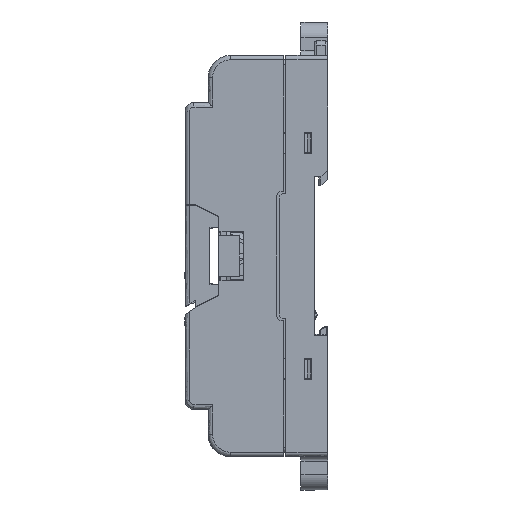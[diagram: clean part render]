
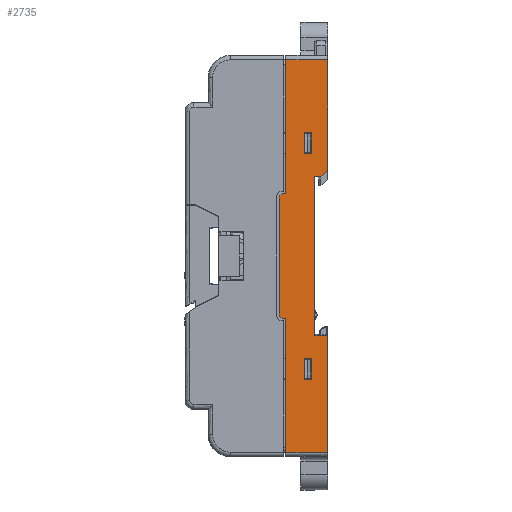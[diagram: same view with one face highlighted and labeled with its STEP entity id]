
A CAD part, left-side view. The second image highlights one B-rep face of the part: STEP entity #2735.
In plain terms, the highlighted planar face has unit normal (-1, 0, 0).
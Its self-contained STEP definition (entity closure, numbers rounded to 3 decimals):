
#536=FACE_BOUND('',#10218,.T.);
#537=FACE_BOUND('',#10219,.T.);
#2735=ADVANCED_FACE('',(#6260,#536,#537),#65721,.T.);
#6260=FACE_OUTER_BOUND('',#10217,.T.);
#10217=EDGE_LOOP('',(#25994,#25995,#25996,#25997,#25998,#25999,#26000,#26001,
#26002,#26003,#26004,#26005,#26006,#26007,#26008,#26009));
#10218=EDGE_LOOP('',(#26010,#26011,#26012,#26013));
#10219=EDGE_LOOP('',(#26014,#26015,#26016,#26017));
#25994=ORIENTED_EDGE('',*,*,#41340,.T.);
#25995=ORIENTED_EDGE('',*,*,#39799,.T.);
#25996=ORIENTED_EDGE('',*,*,#42056,.T.);
#25997=ORIENTED_EDGE('',*,*,#41346,.T.);
#25998=ORIENTED_EDGE('',*,*,#41097,.F.);
#25999=ORIENTED_EDGE('',*,*,#41345,.T.);
#26000=ORIENTED_EDGE('',*,*,#41959,.T.);
#26001=ORIENTED_EDGE('',*,*,#39856,.T.);
#26002=ORIENTED_EDGE('',*,*,#41344,.T.);
#26003=ORIENTED_EDGE('',*,*,#40287,.F.);
#26004=ORIENTED_EDGE('',*,*,#41343,.T.);
#26005=ORIENTED_EDGE('',*,*,#41943,.T.);
#26006=ORIENTED_EDGE('',*,*,#41342,.T.);
#26007=ORIENTED_EDGE('',*,*,#41914,.T.);
#26008=ORIENTED_EDGE('',*,*,#41341,.T.);
#26009=ORIENTED_EDGE('',*,*,#40376,.F.);
#26010=ORIENTED_EDGE('',*,*,#40919,.T.);
#26011=ORIENTED_EDGE('',*,*,#41348,.T.);
#26012=ORIENTED_EDGE('',*,*,#40930,.T.);
#26013=ORIENTED_EDGE('',*,*,#41347,.T.);
#26014=ORIENTED_EDGE('',*,*,#41349,.T.);
#26015=ORIENTED_EDGE('',*,*,#41325,.T.);
#26016=ORIENTED_EDGE('',*,*,#41339,.T.);
#26017=ORIENTED_EDGE('',*,*,#41335,.T.);
#39799=EDGE_CURVE('',#59961,#59962,#51287,.T.);
#39856=EDGE_CURVE('',#60031,#60025,#51344,.T.);
#40287=EDGE_CURVE('',#60607,#60606,#51774,.T.);
#40376=EDGE_CURVE('',#60793,#60792,#51863,.T.);
#40919=EDGE_CURVE('',#61207,#61208,#52385,.T.);
#40930=EDGE_CURVE('',#61216,#61217,#52396,.T.);
#41097=EDGE_CURVE('',#61357,#61356,#52547,.T.);
#41325=EDGE_CURVE('',#61492,#61493,#52738,.T.);
#41335=EDGE_CURVE('',#61495,#61496,#52747,.T.);
#41339=EDGE_CURVE('',#61493,#61495,#52751,.T.);
#41340=EDGE_CURVE('',#60793,#59961,#52752,.T.);
#41341=EDGE_CURVE('',#61497,#60792,#52753,.T.);
#41342=EDGE_CURVE('',#61499,#61498,#52754,.T.);
#41343=EDGE_CURVE('',#60607,#61500,#52755,.T.);
#41344=EDGE_CURVE('',#60025,#60606,#52756,.T.);
#41345=EDGE_CURVE('',#61357,#61501,#52757,.T.);
#41346=EDGE_CURVE('',#61502,#61356,#52758,.T.);
#41347=EDGE_CURVE('',#61217,#61207,#52759,.T.);
#41348=EDGE_CURVE('',#61208,#61216,#52760,.T.);
#41349=EDGE_CURVE('',#61496,#61492,#52761,.T.);
#41914=EDGE_CURVE('',#61498,#61497,#45836,.T.);
#41943=EDGE_CURVE('',#61500,#61499,#45842,.T.);
#41959=EDGE_CURVE('',#61501,#60031,#53323,.T.);
#42056=EDGE_CURVE('',#59962,#61502,#45851,.T.);
#45836=(
BOUNDED_CURVE()
B_SPLINE_CURVE(2,(#113465,#113466,#113467),.UNSPECIFIED.,.F.,.F.)
B_SPLINE_CURVE_WITH_KNOTS((3,3),(0.,1.571),.UNSPECIFIED.)
CURVE()
GEOMETRIC_REPRESENTATION_ITEM()
RATIONAL_B_SPLINE_CURVE((1.,0.707,1.))
REPRESENTATION_ITEM('')
);
#45842=(
BOUNDED_CURVE()
B_SPLINE_CURVE(2,(#113529,#113530,#113531),.UNSPECIFIED.,.F.,.F.)
B_SPLINE_CURVE_WITH_KNOTS((3,3),(0.,1.571),.UNSPECIFIED.)
CURVE()
GEOMETRIC_REPRESENTATION_ITEM()
RATIONAL_B_SPLINE_CURVE((1.,0.707,1.))
REPRESENTATION_ITEM('')
);
#45851=(
BOUNDED_CURVE()
B_SPLINE_CURVE(2,(#113842,#113843,#113844),.UNSPECIFIED.,.F.,.F.)
B_SPLINE_CURVE_WITH_KNOTS((3,3),(0.,0.314),.UNSPECIFIED.)
CURVE()
GEOMETRIC_REPRESENTATION_ITEM()
RATIONAL_B_SPLINE_CURVE((1.,0.707,1.))
REPRESENTATION_ITEM('')
);
#51287=B_SPLINE_CURVE_WITH_KNOTS('',1,(#108544,#108545),.UNSPECIFIED.,.F.,
 .F.,(2,2),(0.,26.05),.UNSPECIFIED.);
#51344=B_SPLINE_CURVE_WITH_KNOTS('',1,(#108730,#108731),.UNSPECIFIED.,.F.,
 .F.,(2,2),(0.,24.75),.UNSPECIFIED.);
#51774=B_SPLINE_CURVE_WITH_KNOTS('',1,(#109683,#109684),.UNSPECIFIED.,.F.,
 .F.,(2,2),(-30.,0.),.UNSPECIFIED.);
#51863=B_SPLINE_CURVE_WITH_KNOTS('',1,(#109861,#109862),.UNSPECIFIED.,.F.,
 .F.,(2,2),(-30.,0.),.UNSPECIFIED.);
#52385=B_SPLINE_CURVE_WITH_KNOTS('',1,(#110990,#110991),.UNSPECIFIED.,.F.,
 .F.,(2,2),(0.,1.65),.UNSPECIFIED.);
#52396=B_SPLINE_CURVE_WITH_KNOTS('',1,(#111012,#111013),.UNSPECIFIED.,.F.,
 .F.,(2,2),(0.,1.65),.UNSPECIFIED.);
#52547=B_SPLINE_CURVE_WITH_KNOTS('',1,(#111450,#111451),.UNSPECIFIED.,.F.,
 .F.,(2,2),(-35.5,0.),.UNSPECIFIED.);
#52738=B_SPLINE_CURVE_WITH_KNOTS('',1,(#112176,#112177),.UNSPECIFIED.,.F.,
 .F.,(2,2),(0.,1.65),.UNSPECIFIED.);
#52747=B_SPLINE_CURVE_WITH_KNOTS('',1,(#112203,#112204),.UNSPECIFIED.,.F.,
 .F.,(2,2),(0.,1.65),.UNSPECIFIED.);
#52751=B_SPLINE_CURVE_WITH_KNOTS('',1,(#112211,#112212),.UNSPECIFIED.,.F.,
 .F.,(2,2),(0.,4.75),.UNSPECIFIED.);
#52752=B_SPLINE_CURVE_WITH_KNOTS('',1,(#112213,#112214),.UNSPECIFIED.,.F.,
 .F.,(2,2),(-9.4,0.),.UNSPECIFIED.);
#52753=B_SPLINE_CURVE_WITH_KNOTS('',1,(#112215,#112216),.UNSPECIFIED.,.F.,
 .F.,(2,2),(-0.5,0.),.UNSPECIFIED.);
#52754=B_SPLINE_CURVE_WITH_KNOTS('',1,(#112217,#112218),.UNSPECIFIED.,.F.,
 .F.,(2,2),(-26.,0.),.UNSPECIFIED.);
#52755=B_SPLINE_CURVE_WITH_KNOTS('',1,(#112219,#112220),.UNSPECIFIED.,.F.,
 .F.,(2,2),(-0.5,0.),.UNSPECIFIED.);
#52756=B_SPLINE_CURVE_WITH_KNOTS('',1,(#112221,#112222),.UNSPECIFIED.,.F.,
 .F.,(2,2),(-9.4,0.),.UNSPECIFIED.);
#52757=B_SPLINE_CURVE_WITH_KNOTS('',1,(#112223,#112224),.UNSPECIFIED.,.F.,
 .F.,(2,2),(-1.5,0.),.UNSPECIFIED.);
#52758=B_SPLINE_CURVE_WITH_KNOTS('',1,(#112225,#112226),.UNSPECIFIED.,.F.,
 .F.,(2,2),(-2.8,0.),.UNSPECIFIED.);
#52759=B_SPLINE_CURVE_WITH_KNOTS('',1,(#112227,#112228),.UNSPECIFIED.,.F.,
 .F.,(2,2),(-4.75,0.),.UNSPECIFIED.);
#52760=B_SPLINE_CURVE_WITH_KNOTS('',1,(#112229,#112230),.UNSPECIFIED.,.F.,
 .F.,(2,2),(-4.75,0.),.UNSPECIFIED.);
#52761=B_SPLINE_CURVE_WITH_KNOTS('',1,(#112231,#112232),.UNSPECIFIED.,.F.,
 .F.,(2,2),(-4.75,0.),.UNSPECIFIED.);
#53323=B_SPLINE_CURVE_WITH_KNOTS('',1,(#113565,#113566),.UNSPECIFIED.,.F.,
 .F.,(2,2),(0.,2.121),.UNSPECIFIED.);
#59961=VERTEX_POINT('',#106655);
#59962=VERTEX_POINT('',#106656);
#60025=VERTEX_POINT('',#106719);
#60031=VERTEX_POINT('',#106725);
#60606=VERTEX_POINT('',#107300);
#60607=VERTEX_POINT('',#107301);
#60792=VERTEX_POINT('',#107486);
#60793=VERTEX_POINT('',#107487);
#61207=VERTEX_POINT('',#107901);
#61208=VERTEX_POINT('',#107902);
#61216=VERTEX_POINT('',#107910);
#61217=VERTEX_POINT('',#107911);
#61356=VERTEX_POINT('',#108050);
#61357=VERTEX_POINT('',#108051);
#61492=VERTEX_POINT('',#108186);
#61493=VERTEX_POINT('',#108187);
#61495=VERTEX_POINT('',#108189);
#61496=VERTEX_POINT('',#108190);
#61497=VERTEX_POINT('',#108191);
#61498=VERTEX_POINT('',#108192);
#61499=VERTEX_POINT('',#108193);
#61500=VERTEX_POINT('',#108194);
#61501=VERTEX_POINT('',#108195);
#61502=VERTEX_POINT('',#108196);
#65721=PLANE('',#68621);
#68621=AXIS2_PLACEMENT_3D('',#101443,#71418,$);
#71418=DIRECTION('',(-1.,0.,0.));
#101443=CARTESIAN_POINT('',(-100.2,-1.362,-53.072));
#106655=CARTESIAN_POINT('',(-100.2,0.,-44.));
#106656=CARTESIAN_POINT('',(-100.2,0.,-17.95));
#106719=CARTESIAN_POINT('',(-100.2,0.,44.));
#106725=CARTESIAN_POINT('',(-100.2,0.,19.25));
#107300=CARTESIAN_POINT('',(-100.2,9.4,44.));
#107301=CARTESIAN_POINT('',(-100.2,9.4,14.));
#107486=CARTESIAN_POINT('',(-100.2,9.4,-14.));
#107487=CARTESIAN_POINT('',(-100.2,9.4,-44.));
#107901=CARTESIAN_POINT('',(-100.2,5.3,27.675));
#107902=CARTESIAN_POINT('',(-100.2,3.65,27.675));
#107910=CARTESIAN_POINT('',(-100.2,3.65,22.925));
#107911=CARTESIAN_POINT('',(-100.2,5.3,22.925));
#108050=CARTESIAN_POINT('',(-100.2,3.,-17.75));
#108051=CARTESIAN_POINT('',(-100.2,3.,17.75));
#108186=CARTESIAN_POINT('',(-100.2,5.3,-22.925));
#108187=CARTESIAN_POINT('',(-100.2,3.65,-22.925));
#108189=CARTESIAN_POINT('',(-100.2,3.65,-27.675));
#108190=CARTESIAN_POINT('',(-100.2,5.3,-27.675));
#108191=CARTESIAN_POINT('',(-100.2,9.9,-14.));
#108192=CARTESIAN_POINT('',(-100.2,10.9,-13.));
#108193=CARTESIAN_POINT('',(-100.2,10.9,13.));
#108194=CARTESIAN_POINT('',(-100.2,9.9,14.));
#108195=CARTESIAN_POINT('',(-100.2,1.5,17.75));
#108196=CARTESIAN_POINT('',(-100.2,0.2,-17.75));
#108544=CARTESIAN_POINT('',(-100.2,0.,-44.));
#108545=CARTESIAN_POINT('',(-100.2,0.,-17.95));
#108730=CARTESIAN_POINT('',(-100.2,0.,19.25));
#108731=CARTESIAN_POINT('',(-100.2,0.,44.));
#109683=CARTESIAN_POINT('',(-100.2,9.4,14.));
#109684=CARTESIAN_POINT('',(-100.2,9.4,44.));
#109861=CARTESIAN_POINT('',(-100.2,9.4,-44.));
#109862=CARTESIAN_POINT('',(-100.2,9.4,-14.));
#110990=CARTESIAN_POINT('',(-100.2,5.3,27.675));
#110991=CARTESIAN_POINT('',(-100.2,3.65,27.675));
#111012=CARTESIAN_POINT('',(-100.2,3.65,22.925));
#111013=CARTESIAN_POINT('',(-100.2,5.3,22.925));
#111450=CARTESIAN_POINT('',(-100.2,3.,17.75));
#111451=CARTESIAN_POINT('',(-100.2,3.,-17.75));
#112176=CARTESIAN_POINT('',(-100.2,5.3,-22.925));
#112177=CARTESIAN_POINT('',(-100.2,3.65,-22.925));
#112203=CARTESIAN_POINT('',(-100.2,3.65,-27.675));
#112204=CARTESIAN_POINT('',(-100.2,5.3,-27.675));
#112211=CARTESIAN_POINT('',(-100.2,3.65,-22.925));
#112212=CARTESIAN_POINT('',(-100.2,3.65,-27.675));
#112213=CARTESIAN_POINT('',(-100.2,9.4,-44.));
#112214=CARTESIAN_POINT('',(-100.2,0.,-44.));
#112215=CARTESIAN_POINT('',(-100.2,9.9,-14.));
#112216=CARTESIAN_POINT('',(-100.2,9.4,-14.));
#112217=CARTESIAN_POINT('',(-100.2,10.9,13.));
#112218=CARTESIAN_POINT('',(-100.2,10.9,-13.));
#112219=CARTESIAN_POINT('',(-100.2,9.4,14.));
#112220=CARTESIAN_POINT('',(-100.2,9.9,14.));
#112221=CARTESIAN_POINT('',(-100.2,0.,44.));
#112222=CARTESIAN_POINT('',(-100.2,9.4,44.));
#112223=CARTESIAN_POINT('',(-100.2,3.,17.75));
#112224=CARTESIAN_POINT('',(-100.2,1.5,17.75));
#112225=CARTESIAN_POINT('',(-100.2,0.2,-17.75));
#112226=CARTESIAN_POINT('',(-100.2,3.,-17.75));
#112227=CARTESIAN_POINT('',(-100.2,5.3,22.925));
#112228=CARTESIAN_POINT('',(-100.2,5.3,27.675));
#112229=CARTESIAN_POINT('',(-100.2,3.65,27.675));
#112230=CARTESIAN_POINT('',(-100.2,3.65,22.925));
#112231=CARTESIAN_POINT('',(-100.2,5.3,-27.675));
#112232=CARTESIAN_POINT('',(-100.2,5.3,-22.925));
#113465=CARTESIAN_POINT('',(-100.2,10.9,-13.));
#113466=CARTESIAN_POINT('',(-100.2,10.9,-14.));
#113467=CARTESIAN_POINT('',(-100.2,9.9,-14.));
#113529=CARTESIAN_POINT('',(-100.2,9.9,14.));
#113530=CARTESIAN_POINT('',(-100.2,10.9,14.));
#113531=CARTESIAN_POINT('',(-100.2,10.9,13.));
#113565=CARTESIAN_POINT('',(-100.2,1.5,17.75));
#113566=CARTESIAN_POINT('',(-100.2,0.,19.25));
#113842=CARTESIAN_POINT('',(-100.2,0.,-17.95));
#113843=CARTESIAN_POINT('',(-100.2,0.,-17.75));
#113844=CARTESIAN_POINT('',(-100.2,0.2,-17.75));
